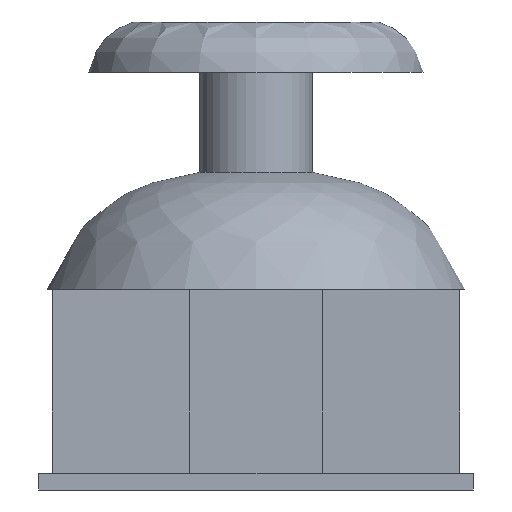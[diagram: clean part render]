
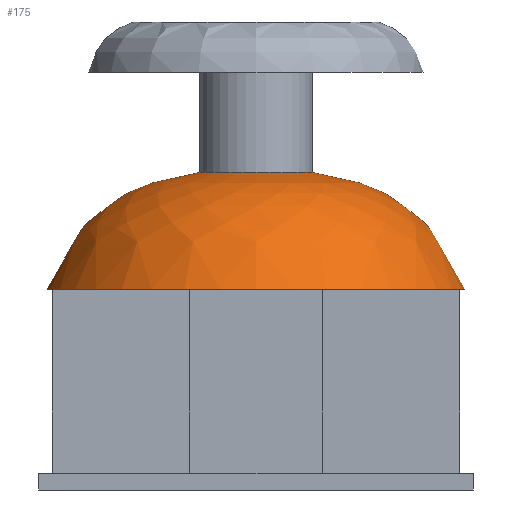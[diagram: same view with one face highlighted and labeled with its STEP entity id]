
A CAD part, left-side view. The second image highlights one B-rep face of the part: STEP entity #175.
In plain terms, the highlighted face is a revolution surface.
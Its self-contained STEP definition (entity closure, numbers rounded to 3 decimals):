
#110 = CYLINDRICAL_SURFACE('',#111,3.382);
#111 = AXIS2_PLACEMENT_3D('',#112,#113,#114);
#112 = CARTESIAN_POINT('',(0.,0.,25.));
#113 = DIRECTION('',(0.,0.,-1.));
#114 = DIRECTION('',(1.,0.,0.));
#127 = VERTEX_POINT('',#128);
#128 = CARTESIAN_POINT('',(3.382,0.,19.));
#147 = EDGE_CURVE('',#127,#127,#148,.T.);
#148 = SURFACE_CURVE('',#149,(#154,#160),.PCURVE_S1.);
#149 = CIRCLE('',#150,3.382);
#150 = AXIS2_PLACEMENT_3D('',#151,#152,#153);
#151 = CARTESIAN_POINT('',(0.,0.,19.));
#152 = DIRECTION('',(0.,0.,-1.));
#153 = DIRECTION('',(1.,0.,0.));
#154 = PCURVE('',#110,#155);
#155 = DEFINITIONAL_REPRESENTATION('',(#156),#159);
#156 = B_SPLINE_CURVE_WITH_KNOTS('',1,(#157,#158),.UNSPECIFIED.,.F.,.F.,
  (2,2),(0.,6.283),.PIECEWISE_BEZIER_KNOTS.);
#157 = CARTESIAN_POINT('',(0.,6.));
#158 = CARTESIAN_POINT('',(6.283,6.));
#159 = ( GEOMETRIC_REPRESENTATION_CONTEXT(2) 
PARAMETRIC_REPRESENTATION_CONTEXT() REPRESENTATION_CONTEXT('2D SPACE',''
  ) );
#160 = PCURVE('',#161,#169);
#161 = SURFACE_OF_REVOLUTION('',#162,#166);
#162 = B_SPLINE_CURVE_WITH_KNOTS('',2,(#163,#164,#165),.UNSPECIFIED.,.F.
  ,.F.,(3,3),(0.,1.),.PIECEWISE_BEZIER_KNOTS.);
#163 = CARTESIAN_POINT('',(12.5,0.,12.));
#164 = CARTESIAN_POINT('',(10.251,0.,18.267));
#165 = CARTESIAN_POINT('',(3.382,0.,19.));
#166 = AXIS1_PLACEMENT('',#167,#168);
#167 = CARTESIAN_POINT('',(0.,0.,0.));
#168 = DIRECTION('',(0.,0.,-1.));
#169 = DEFINITIONAL_REPRESENTATION('',(#170),#173);
#170 = B_SPLINE_CURVE_WITH_KNOTS('',1,(#171,#172),.UNSPECIFIED.,.F.,.F.,
  (2,2),(0.,6.283),.PIECEWISE_BEZIER_KNOTS.);
#171 = CARTESIAN_POINT('',(0.,1.));
#172 = CARTESIAN_POINT('',(6.283,1.));
#173 = ( GEOMETRIC_REPRESENTATION_CONTEXT(2) 
PARAMETRIC_REPRESENTATION_CONTEXT() REPRESENTATION_CONTEXT('2D SPACE',''
  ) );
#175 = ADVANCED_FACE('',(#176),#161,.F.);
#176 = FACE_BOUND('',#177,.F.);
#177 = EDGE_LOOP('',(#178,#206,#225,#226));
#178 = ORIENTED_EDGE('',*,*,#179,.T.);
#179 = EDGE_CURVE('',#180,#180,#182,.T.);
#180 = VERTEX_POINT('',#181);
#181 = CARTESIAN_POINT('',(12.5,0.,12.));
#182 = SURFACE_CURVE('',#183,(#188,#194),.PCURVE_S1.);
#183 = CIRCLE('',#184,12.5);
#184 = AXIS2_PLACEMENT_3D('',#185,#186,#187);
#185 = CARTESIAN_POINT('',(0.,0.,12.));
#186 = DIRECTION('',(0.,0.,-1.));
#187 = DIRECTION('',(1.,0.,0.));
#188 = PCURVE('',#161,#189);
#189 = DEFINITIONAL_REPRESENTATION('',(#190),#193);
#190 = B_SPLINE_CURVE_WITH_KNOTS('',1,(#191,#192),.UNSPECIFIED.,.F.,.F.,
  (2,2),(0.,6.283),.PIECEWISE_BEZIER_KNOTS.);
#191 = CARTESIAN_POINT('',(0.,0.));
#192 = CARTESIAN_POINT('',(6.283,0.));
#193 = ( GEOMETRIC_REPRESENTATION_CONTEXT(2) 
PARAMETRIC_REPRESENTATION_CONTEXT() REPRESENTATION_CONTEXT('2D SPACE',''
  ) );
#194 = PCURVE('',#195,#200);
#195 = PLANE('',#196);
#196 = AXIS2_PLACEMENT_3D('',#197,#198,#199);
#197 = CARTESIAN_POINT('',(0.,0.,12.));
#198 = DIRECTION('',(0.,0.,-1.));
#199 = DIRECTION('',(1.,0.,0.));
#200 = DEFINITIONAL_REPRESENTATION('',(#201),#205);
#201 = CIRCLE('',#202,12.5);
#202 = AXIS2_PLACEMENT_2D('',#203,#204);
#203 = CARTESIAN_POINT('',(0.,0.));
#204 = DIRECTION('',(1.,0.));
#205 = ( GEOMETRIC_REPRESENTATION_CONTEXT(2) 
PARAMETRIC_REPRESENTATION_CONTEXT() REPRESENTATION_CONTEXT('2D SPACE',''
  ) );
#206 = ORIENTED_EDGE('',*,*,#207,.T.);
#207 = EDGE_CURVE('',#180,#127,#208,.T.);
#208 = SEAM_CURVE('',#209,(#213,#219),.PCURVE_S1.);
#209 = B_SPLINE_CURVE_WITH_KNOTS('',2,(#210,#211,#212),.UNSPECIFIED.,.F.
  ,.F.,(3,3),(0.,1.),.PIECEWISE_BEZIER_KNOTS.);
#210 = CARTESIAN_POINT('',(12.5,0.,12.));
#211 = CARTESIAN_POINT('',(10.251,0.,18.267));
#212 = CARTESIAN_POINT('',(3.382,0.,19.));
#213 = PCURVE('',#161,#214);
#214 = DEFINITIONAL_REPRESENTATION('',(#215),#218);
#215 = B_SPLINE_CURVE_WITH_KNOTS('',1,(#216,#217),.UNSPECIFIED.,.F.,.F.,
  (2,2),(0.,1.),.PIECEWISE_BEZIER_KNOTS.);
#216 = CARTESIAN_POINT('',(0.,0.));
#217 = CARTESIAN_POINT('',(0.,1.));
#218 = ( GEOMETRIC_REPRESENTATION_CONTEXT(2) 
PARAMETRIC_REPRESENTATION_CONTEXT() REPRESENTATION_CONTEXT('2D SPACE',''
  ) );
#219 = PCURVE('',#161,#220);
#220 = DEFINITIONAL_REPRESENTATION('',(#221),#224);
#221 = B_SPLINE_CURVE_WITH_KNOTS('',1,(#222,#223),.UNSPECIFIED.,.F.,.F.,
  (2,2),(0.,1.),.PIECEWISE_BEZIER_KNOTS.);
#222 = CARTESIAN_POINT('',(6.283,0.));
#223 = CARTESIAN_POINT('',(6.283,1.));
#224 = ( GEOMETRIC_REPRESENTATION_CONTEXT(2) 
PARAMETRIC_REPRESENTATION_CONTEXT() REPRESENTATION_CONTEXT('2D SPACE',''
  ) );
#225 = ORIENTED_EDGE('',*,*,#147,.F.);
#226 = ORIENTED_EDGE('',*,*,#207,.F.);
